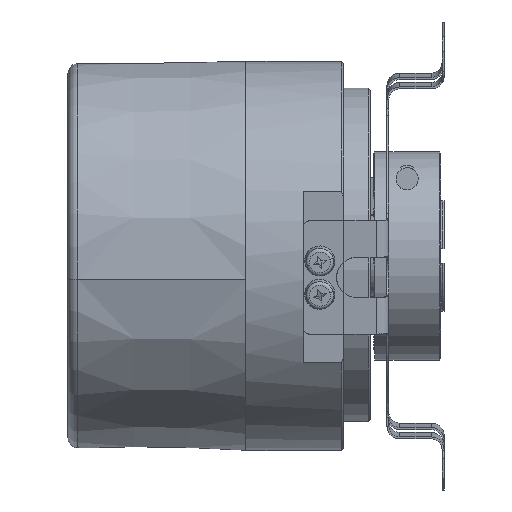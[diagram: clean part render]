
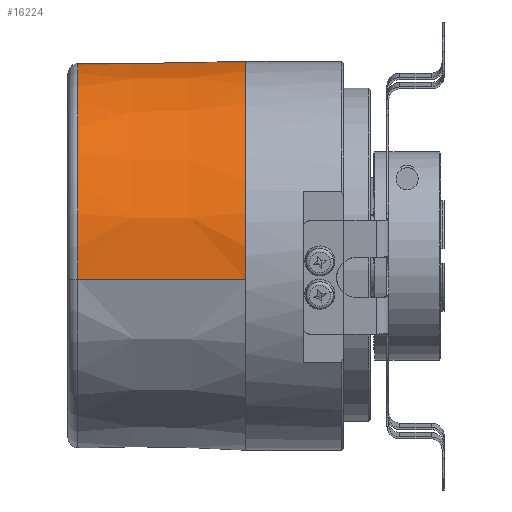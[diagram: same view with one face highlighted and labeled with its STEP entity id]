
A CAD part, front view. The second image highlights one B-rep face of the part: STEP entity #16224.
In plain terms, the highlighted conical face has half-angle 0.75 degrees and reference radius 29 mm.
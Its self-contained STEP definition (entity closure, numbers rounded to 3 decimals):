
#4956 = CARTESIAN_POINT ( 'NONE',  ( 7.5, 22.36, 18.467 ) ) ;
#5035 = CARTESIAN_POINT ( 'NONE',  ( -17.52, -28.459, -3.494 ) ) ;
#5095 = CARTESIAN_POINT ( 'NONE',  ( -17.52, 21.923, 18.479 ) ) ;
#5096 = DIRECTION ( 'NONE',  ( 0., 0.993, 0.122 ) ) ;
#5097 = DIRECTION ( 'NONE',  ( 1., 0., 0. ) ) ;
#5098 = CARTESIAN_POINT ( 'NONE',  ( -17.52, 0., 0. ) ) ;
#5099 = AXIS2_PLACEMENT_3D ( 'NONE', #5098, #5097, #5096 ) ;
#5100 = CIRCLE ( 'NONE', #5099, 28.672 ) ;
#5120 = FACE_OUTER_BOUND ( 'NONE', #16225, .T. ) ;
#5148 = LINE ( 'NONE', #5201, #5200 ) ;
#5154 = DIRECTION ( 'NONE',  ( 0., -0.993, -0.122 ) ) ;
#5155 = DIRECTION ( 'NONE',  ( 1., 0., 0. ) ) ;
#5156 = CARTESIAN_POINT ( 'NONE',  ( 7.5, 0., 0. ) ) ;
#5157 = AXIS2_PLACEMENT_3D ( 'NONE', #5156, #5155, #5154 ) ;
#5158 = CONICAL_SURFACE ( 'NONE', #5157, 29., 0.013 ) ;
#5187 = DIRECTION ( 'NONE',  ( 0., 0.993, 0.122 ) ) ;
#5188 = DIRECTION ( 'NONE',  ( -1., 0., 0. ) ) ;
#5189 = CARTESIAN_POINT ( 'NONE',  ( 7.5, 0., 0. ) ) ;
#5190 = AXIS2_PLACEMENT_3D ( 'NONE', #5189, #5188, #5187 ) ;
#5191 = CIRCLE ( 'NONE', #5190, 29. ) ;
#5198 = CARTESIAN_POINT ( 'NONE',  ( 7.5, -28.784, -3.534 ) ) ;
#5199 = DIRECTION ( 'NONE',  ( 1., -0.013, -0.002 ) ) ;
#5200 = VECTOR ( 'NONE', #5199, 1000. ) ;
#5201 = CARTESIAN_POINT ( 'NONE',  ( 7.5, -28.784, -3.534 ) ) ;
#5353 = B_SPLINE_CURVE_WITH_KNOTS ( 'NONE', 3,
 ( #5394, #5393, #5392, #5391, #5390, #5389, #5388, #5387, #5386, #5385 ),
 .UNSPECIFIED., .F., .F.,
 ( 4, 3, 3, 4 ),
 ( 0., 0.003, 0.015, 0.025 ),
 .UNSPECIFIED. ) ;
#5385 = CARTESIAN_POINT ( 'NONE',  ( -17.52, 21.923, 18.479 ) ) ;
#5386 = CARTESIAN_POINT ( 'NONE',  ( -14.179, 21.982, 18.477 ) ) ;
#5387 = CARTESIAN_POINT ( 'NONE',  ( -10.838, 22.04, 18.476 ) ) ;
#5388 = CARTESIAN_POINT ( 'NONE',  ( -7.498, 22.099, 18.474 ) ) ;
#5389 = CARTESIAN_POINT ( 'NONE',  ( -3.498, 22.169, 18.472 ) ) ;
#5390 = CARTESIAN_POINT ( 'NONE',  ( 0.501, 22.238, 18.47 ) ) ;
#5391 = CARTESIAN_POINT ( 'NONE',  ( 4.5, 22.308, 18.469 ) ) ;
#5392 = CARTESIAN_POINT ( 'NONE',  ( 5.5, 22.325, 18.468 ) ) ;
#5393 = CARTESIAN_POINT ( 'NONE',  ( 6.5, 22.343, 18.468 ) ) ;
#5394 = CARTESIAN_POINT ( 'NONE',  ( 7.5, 22.36, 18.467 ) ) ;
#16155 = VERTEX_POINT ( 'NONE', #4956 ) ;
#16184 = VERTEX_POINT ( 'NONE', #5035 ) ;
#16216 = EDGE_CURVE ( 'NONE', #16217, #16184, #5100, .T. ) ;
#16217 = VERTEX_POINT ( 'NONE', #5095 ) ;
#16224 = ADVANCED_FACE ( 'NONE', ( #5120 ), #5158, .T. ) ;
#16225 = EDGE_LOOP ( 'NONE', ( #16228, #16230, #16236, #16265 ) ) ;
#16228 = ORIENTED_EDGE ( 'NONE', *, *, #16216, .T. ) ;
#16230 = ORIENTED_EDGE ( 'NONE', *, *, #16231, .T. ) ;
#16231 = EDGE_CURVE ( 'NONE', #16184, #16233, #5148, .T. ) ;
#16233 = VERTEX_POINT ( 'NONE', #5198 ) ;
#16236 = ORIENTED_EDGE ( 'NONE', *, *, #16237, .T. ) ;
#16237 = EDGE_CURVE ( 'NONE', #16233, #16155, #5191, .T. ) ;
#16265 = ORIENTED_EDGE ( 'NONE', *, *, #16268, .T. ) ;
#16268 = EDGE_CURVE ( 'NONE', #16155, #16217, #5353, .T. ) ;
